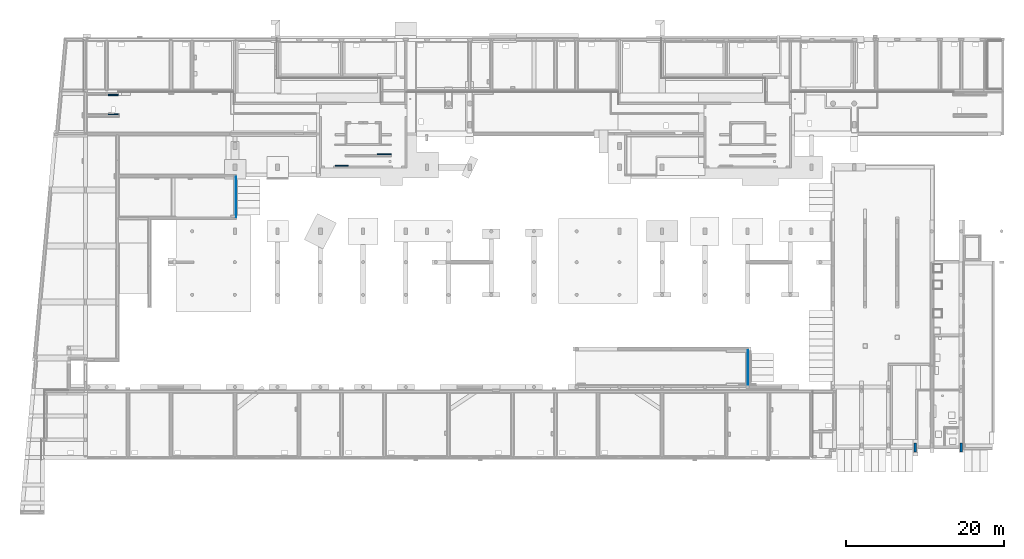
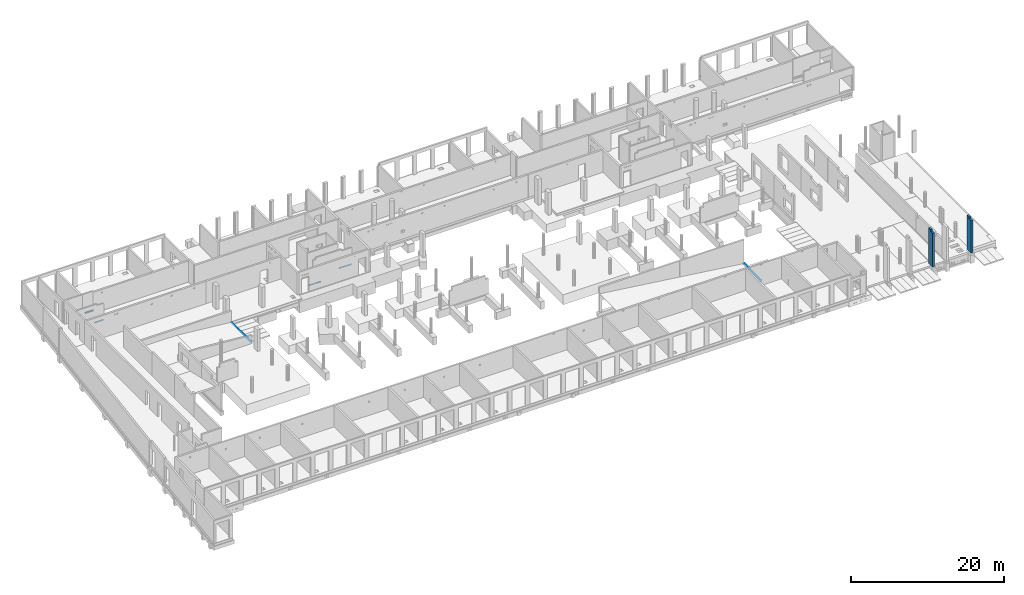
# One storey, part 17 of 60: 6 beams, 2 columns.
"""IFC2X3 building model written with IfcOpenShell, lengths in millimetres."""

from ifc_helpers import new_model, entity, si_unit, converted_unit, derived_unit, direction, frame, frame_2d, origin, place, context, subcontext, project, spatial, polyline, circle_curve, parameter, trimmed, segment, composite_curve, outline, extrude, faceted_brep, source, transform, mapped, material, type_object, type_shapes, element, save


model = new_model("IFC2X3")

# Units and contexts
model_context = context("Model", 3, precision=0.01, world=origin(), true_north=direction((6.12303176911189e-17, 1.0)))
body_context = subcontext(model_context, "Body", "Model", "MODEL_VIEW")
ifc_project = project(units=[si_unit("LENGTHUNIT", "METRE", prefix="MILLI"), si_unit("AREAUNIT", "SQUARE_METRE"), si_unit("VOLUMEUNIT", "CUBIC_METRE"), converted_unit("PLANEANGLEUNIT", "DEGREE", entity("IfcRatioMeasure", 0.0174532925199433), si_unit("PLANEANGLEUNIT", "RADIAN"), dimensions=[0, 0, 0, 0, 0, 0, 0]), si_unit("MASSUNIT", "GRAM", prefix="KILO"), derived_unit("MASSDENSITYUNIT", [(si_unit("MASSUNIT", "GRAM", prefix="KILO"), 1), (si_unit("LENGTHUNIT", "METRE"), -3)]), si_unit("TIMEUNIT", "SECOND"), si_unit("FREQUENCYUNIT", "HERTZ"), si_unit("THERMODYNAMICTEMPERATUREUNIT", "DEGREE_CELSIUS"), derived_unit("THERMALTRANSMITTANCEUNIT", [(si_unit("MASSUNIT", "GRAM", prefix="KILO"), 1), (si_unit("THERMODYNAMICTEMPERATUREUNIT", "KELVIN"), -1), (si_unit("TIMEUNIT", "SECOND"), -3)]), derived_unit("VOLUMETRICFLOWRATEUNIT", [(si_unit("LENGTHUNIT", "METRE"), 3), (si_unit("TIMEUNIT", "SECOND"), -1)]), si_unit("ELECTRICCURRENTUNIT", "AMPERE"), si_unit("ELECTRICVOLTAGEUNIT", "VOLT"), si_unit("POWERUNIT", "WATT"), si_unit("FORCEUNIT", "NEWTON", prefix="KILO"), si_unit("ILLUMINANCEUNIT", "LUX"), si_unit("LUMINOUSFLUXUNIT", "LUMEN"), si_unit("LUMINOUSINTENSITYUNIT", "CANDELA"), derived_unit("USERDEFINED", [(si_unit("MASSUNIT", "GRAM", prefix="KILO"), -1), (si_unit("LENGTHUNIT", "METRE"), -2), (si_unit("TIMEUNIT", "SECOND"), 3), (si_unit("LUMINOUSFLUXUNIT", "LUMEN"), 1)]), derived_unit("LINEARVELOCITYUNIT", [(si_unit("LENGTHUNIT", "METRE"), 1), (si_unit("TIMEUNIT", "SECOND"), -1)]), si_unit("PRESSUREUNIT", "PASCAL"), derived_unit("USERDEFINED", [(si_unit("LENGTHUNIT", "METRE"), -2), (si_unit("MASSUNIT", "GRAM", prefix="KILO"), 1), (si_unit("TIMEUNIT", "SECOND"), -2)])], contexts=[model_context])

# Site, building, storey
site_placement = place(None, origin())
site = spatial("IfcSite", under=ifc_project, at=site_placement, Name="Default", CompositionType="ELEMENT")
building_placement = place(site_placement, origin())
building = spatial("IfcBuilding", under=site, at=building_placement, Name="niet gebruiken", CompositionType="ELEMENT")
storey_placement = place(building_placement, origin())
storey = spatial("IfcBuildingStorey", under=building, at=storey_placement, Name="00 begane grond", CompositionType="ELEMENT", Elevation=0.0)

# Columns
ifc_material_1 = material(Name="NLRS_f2_beton prefab")
column_type_1 = type_object("IfcColumnType", Name="300x1100", PredefinedType="COLUMN", material=ifc_material_1)
shared_shape_1 = source(origin(), body_context, "Body", "Brep", [
    faceted_brep([(0.0, 0.0, 0.0), (300.0, 0.0, 0.0), (300.0, 0.0, 5360.0), (0.0, 0.0, 5360.0), (0.0, 1100.0, 5620.0), (300.0, 1100.0, 5620.0), (300.0, 1100.0, 0.0), (0.0, 1100.0, 0.0), (0.0, 570.0, 5620.0), (300.0, 570.0, 5620.0), (0.0, 570.0, 5360.0), (300.0, 570.0, 5360.0)], [[[0, 1, 2, 3]], [[4, 5, 6, 7]], [[5, 4, 8, 9]], [[6, 1, 0, 7]], [[7, 0, 3, 10, 8, 4]], [[1, 6, 5, 9, 11, 2]], [[10, 11, 9, 8]], [[11, 10, 3, 2]]]),
])
type_shapes(column_type_1, [shared_shape_1])
column_1_placement = place(storey_placement, frame((112850.000370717, 1000.0, -170.0)))
element("IfcColumn", 1, at=column_1_placement, inside=storey, type_object=column_type_1, material=ifc_material_1, Name="NLRS_28. kolom vierkant_gen1:300x1100", ObjectType="300x1100", context=body_context, shape_type="MappedRepresentation", body=[
    mapped(shared_shape_1, transform((0.0, 0.0, 0.0), scale=1.0)),
])
column_type_2 = type_object("IfcColumnType", Name="300x1100", PredefinedType="COLUMN", material=ifc_material_1)
shared_shape_2 = source(origin(), body_context, "Body", "Brep", [
    faceted_brep([(0.0, 0.0, 0.0), (300.0, 0.0, 0.0), (300.0, 0.0, 5160.0), (0.0, 0.0, 5160.0), (0.0, 1100.0, 5420.0), (300.0, 1100.0, 5420.0), (300.0, 1100.0, 0.0), (0.0, 1100.0, 0.0), (0.0, 570.0, 5420.0), (300.0, 570.0, 5420.0), (0.0, 570.0, 5160.0), (300.0, 570.0, 5160.0)], [[[0, 1, 2, 3]], [[4, 5, 6, 7]], [[5, 4, 8, 9]], [[6, 1, 0, 7]], [[7, 0, 3, 10, 8, 4]], [[1, 6, 5, 9, 11, 2]], [[10, 11, 9, 8]], [[11, 10, 3, 2]]]),
])
type_shapes(column_type_2, [shared_shape_2])
column_2_placement = place(storey_placement, frame((118650.0, 1000.0, 30.0)))
element("IfcColumn", 2, at=column_2_placement, inside=storey, type_object=column_type_2, material=ifc_material_1, Name="NLRS_28. kolom vierkant_gen1:300x1100", ObjectType="300x1100", context=body_context, shape_type="MappedRepresentation", body=[
    mapped(shared_shape_2, transform((0.0, 0.0, 0.0), scale=1.0)),
])

# Beams
ifc_material_2 = material(Name="NLRS_h2_staal")
beam_type_1 = type_object("IfcBeamType", Name="NLRS_28.11_SF_WPB_stalen ligger hoekprofiel gelijkzijdig_gen:ligger gelijzijdig hoekprofiel LEQU_150x150x15", PredefinedType="BEAM")
beam_1_placement = place(storey_placement, frame((39672.5032059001, 37148.5000000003, 600.909090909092)))
element("IfcBeam", 3, at=beam_1_placement, inside=storey, type_object=beam_type_1, material=ifc_material_2, Name="NLRS_28.11_SF_WPB_stalen ligger hoekprofiel gelijkzijdig_gen:ligger gelijzijdig hoekprofiel LEQU_150x150x15", ObjectType="NLRS_28.11_SF_WPB_stalen ligger hoekprofiel gelijkzijdig_gen:ligger gelijzijdig hoekprofiel LEQU_150x150x15", context=body_context, shape_type="SweptSolid", body=[
    extrude(outline(composite_curve([segment(polyline([(-93.3333333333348, -56.6666666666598), (56.6666666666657, -56.6666666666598)]), True, "CONTINUOUS"), segment(polyline([(56.6666666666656, -56.6666666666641), (56.6666666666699, 93.3333333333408)]), True, "CONTINUOUS"), segment(polyline([(56.6666666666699, 93.3333333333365), (49.6666666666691, 93.333333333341)]), True, "CONTINUOUS"), segment(trimmed(circle_curve(frame_2d((49.666666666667, 85.3333333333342), x_axis=(0.0, 1.0)), 7.99999999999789), [parameter(0.0)], [parameter(90.0000000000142)], True, "PARAMETER"), True, "CONTINUOUS"), segment(polyline([(41.6666666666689, 85.3333333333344), (41.6666666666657, -25.666666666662)]), True, "CONTINUOUS"), segment(trimmed(circle_curve(frame_2d((25.6666666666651, -25.6666666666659), x_axis=(1.0, 0.0)), 16.0000000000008), [parameter(270.000000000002)], [parameter(0.0)], True, "PARAMETER"), False, "CONTINUOUS"), segment(polyline([(25.6666666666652, -41.6666666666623), (-85.3333333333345, -41.6666666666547)]), True, "CONTINUOUS"), segment(trimmed(circle_curve(frame_2d((-85.3333333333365, -49.6666666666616), x_axis=(0.0, 1.0)), 7.99999999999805), [parameter(0.0)], [parameter(90.0000000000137)], True, "PARAMETER"), True, "CONTINUOUS"), segment(polyline([(-93.3333333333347, -49.6666666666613), (-93.3333333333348, -56.6666666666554)]), True, "CONTINUOUS")], self_intersect=False)), frame((0.0, 14.1666666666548, 56.6666666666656), z_axis=(1.0, 0.0, 0.0), x_axis=(0.0, 0.0, -1.0)), (0.0, 0.0, 1.0), 1660.0),
])
beam_2_placement = place(storey_placement, frame((12255.0, 46133.5000000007, 760.0), z_axis=(0.0, 0.0, 1.0), x_axis=(-1.0, 0.0, 0.0)))
element("IfcBeam", 4, at=beam_2_placement, inside=storey, type_object=beam_type_1, material=ifc_material_2, Name="NLRS_28.11_SF_WPB_stalen ligger hoekprofiel gelijkzijdig_gen:ligger gelijzijdig hoekprofiel LEQU_150x150x15", ObjectType="NLRS_28.11_SF_WPB_stalen ligger hoekprofiel gelijkzijdig_gen:ligger gelijzijdig hoekprofiel LEQU_150x150x15", context=body_context, shape_type="SweptSolid", body=[
    extrude(outline(composite_curve([segment(polyline([(-93.3333333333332, -56.6666666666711), (56.6666666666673, -56.6666666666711)]), True, "CONTINUOUS"), segment(polyline([(56.6666666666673, -56.6666666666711), (56.6666666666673, 93.3333333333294)]), True, "CONTINUOUS"), segment(polyline([(56.6666666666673, 93.3333333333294), (49.6666666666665, 93.3333333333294)]), True, "CONTINUOUS"), segment(trimmed(circle_curve(frame_2d((49.6666666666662, 85.3333333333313), x_axis=(0.0, 1.0)), 7.99999999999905), [parameter(0.0)], [parameter(90.000000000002)], True, "PARAMETER"), True, "CONTINUOUS"), segment(polyline([(41.6666666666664, 85.3333333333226), (41.6666666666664, -25.6666666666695)]), True, "CONTINUOUS"), segment(trimmed(circle_curve(frame_2d((25.66666666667, -25.6666666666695), x_axis=(1.0, 0.0)), 15.9999999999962), [parameter(269.999999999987)], [parameter(0.0)], True, "PARAMETER"), False, "CONTINUOUS"), segment(polyline([(25.6666666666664, -41.6666666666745), (-85.3333333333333, -41.6666666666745)]), True, "CONTINUOUS"), segment(trimmed(circle_curve(frame_2d((-85.3333333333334, -49.6666666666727), x_axis=(0.0, 1.0)), 7.99999999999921), [parameter(0.0)], [parameter(90.000000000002)], True, "PARAMETER"), True, "CONTINUOUS"), segment(polyline([(-93.3333333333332, -49.6666666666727), (-93.3333333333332, -56.6666666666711)]), True, "CONTINUOUS")], self_intersect=False)), frame((0.0, 14.1666666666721, 56.6666666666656), z_axis=(1.0, 0.0, 0.0), x_axis=(0.0, 0.0, -1.0)), (0.0, 0.0, 1.0), 1249.99999999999),
])
beam_3_placement = place(storey_placement, frame((12255.0, 43618.5000000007, 760.0), z_axis=(0.0, 0.0, 1.0), x_axis=(-1.0, 0.0, 0.0)))
element("IfcBeam", 5, at=beam_3_placement, inside=storey, type_object=beam_type_1, material=ifc_material_2, Name="NLRS_28.11_SF_WPB_stalen ligger hoekprofiel gelijkzijdig_gen:ligger gelijzijdig hoekprofiel LEQU_150x150x15", ObjectType="NLRS_28.11_SF_WPB_stalen ligger hoekprofiel gelijkzijdig_gen:ligger gelijzijdig hoekprofiel LEQU_150x150x15", context=body_context, shape_type="SweptSolid", body=[
    extrude(outline(composite_curve([segment(polyline([(49.6666666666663, -93.3333333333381), (56.6666666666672, -93.3333333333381)]), True, "CONTINUOUS"), segment(polyline([(56.6666666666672, -93.3333333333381), (56.6666666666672, 56.6666666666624)]), True, "CONTINUOUS"), segment(polyline([(56.6666666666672, 56.6666666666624), (-93.3333333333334, 56.6666666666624)]), True, "CONTINUOUS"), segment(polyline([(-93.3333333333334, 56.6666666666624), (-93.3333333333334, 49.666666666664)]), True, "CONTINUOUS"), segment(trimmed(circle_curve(frame_2d((-85.3333333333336, 49.666666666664), x_axis=(-1.0, 0.0)), 7.99999999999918), [parameter(0.0)], [parameter(90.000000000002)], True, "PARAMETER"), True, "CONTINUOUS"), segment(polyline([(-85.3333333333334, 41.6666666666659), (25.6666666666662, 41.6666666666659)]), True, "CONTINUOUS"), segment(trimmed(circle_curve(frame_2d((25.6666666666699, 25.6666666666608), x_axis=(0.0, 1.0)), 15.9999999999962), [parameter(269.999999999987)], [parameter(0.0)], True, "PARAMETER"), False, "CONTINUOUS"), segment(polyline([(41.6666666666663, 25.6666666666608), (41.6666666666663, -85.3333333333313)]), True, "CONTINUOUS"), segment(trimmed(circle_curve(frame_2d((49.6666666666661, -85.3333333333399), x_axis=(-1.0, 0.0)), 7.99999999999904), [parameter(0.0)], [parameter(90.000000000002)], True, "PARAMETER"), True, "CONTINUOUS")], self_intersect=False)), frame((0.0, -14.1666666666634, 56.6666666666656), z_axis=(1.0, 0.0, 0.0), x_axis=(0.0, 0.0, -1.0)), (0.0, 0.0, 1.0), 1249.99999999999),
])
beam_4_placement = place(storey_placement, frame((45020.0, 38568.5, 600.909090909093)))
element("IfcBeam", 6, at=beam_4_placement, inside=storey, type_object=beam_type_1, material=ifc_material_2, Name="NLRS_28.11_SF_WPB_stalen ligger hoekprofiel gelijkzijdig_gen:ligger gelijzijdig hoekprofiel LEQU_150x150x15", ObjectType="NLRS_28.11_SF_WPB_stalen ligger hoekprofiel gelijkzijdig_gen:ligger gelijzijdig hoekprofiel LEQU_150x150x15", context=body_context, shape_type="SweptSolid", body=[
    extrude(outline(composite_curve([segment(polyline([(-93.3333333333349, -56.6666666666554), (56.6666666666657, -56.6666666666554)]), True, "CONTINUOUS"), segment(polyline([(56.6666666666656, -56.6666666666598), (56.6666666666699, 93.3333333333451)]), True, "CONTINUOUS"), segment(polyline([(56.6666666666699, 93.3333333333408), (49.6666666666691, 93.3333333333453)]), True, "CONTINUOUS"), segment(trimmed(circle_curve(frame_2d((49.666666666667, 85.3333333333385), x_axis=(0.0, 1.0)), 7.99999999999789), [parameter(0.0)], [parameter(90.0000000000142)], True, "PARAMETER"), True, "CONTINUOUS"), segment(polyline([(41.6666666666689, 85.3333333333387), (41.6666666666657, -25.6666666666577)]), True, "CONTINUOUS"), segment(trimmed(circle_curve(frame_2d((25.6666666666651, -25.6666666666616), x_axis=(1.0, 0.0)), 16.0000000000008), [parameter(270.000000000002)], [parameter(0.0)], True, "PARAMETER"), False, "CONTINUOUS"), segment(polyline([(25.6666666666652, -41.6666666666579), (-85.3333333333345, -41.6666666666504)]), True, "CONTINUOUS"), segment(trimmed(circle_curve(frame_2d((-85.3333333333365, -49.6666666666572), x_axis=(0.0, 1.0)), 7.99999999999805), [parameter(0.0)], [parameter(90.0000000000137)], True, "PARAMETER"), True, "CONTINUOUS"), segment(polyline([(-93.3333333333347, -49.666666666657), (-93.3333333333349, -56.6666666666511)]), True, "CONTINUOUS")], self_intersect=False)), frame((0.0, 14.1666666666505, 56.6666666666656), z_axis=(1.0, 0.0, 0.0), x_axis=(0.0, 0.0, -1.0)), (0.0, 0.0, 1.0), 1755.00000000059),
])
beam_type_2 = type_object("IfcBeamType", Name="NLRS_28.11_SF_WPB_stalen ligger hoekprofiel gelijkzijdig_gen:ligger gelijzijdig hoekprofiel LEQU_50x50x5", PredefinedType="BEAM")
beam_5_placement = place(storey_placement, frame((91835.9598372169, 13875.6157390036, -50.0), z_axis=(0.0, 0.0, 1.0), x_axis=(0.0, -1.0, 0.0)))
element("IfcBeam", 7, at=beam_5_placement, inside=storey, type_object=beam_type_2, material=ifc_material_2, Name="NLRS_28.11_SF_WPB_stalen ligger hoekprofiel gelijkzijdig_gen:ligger gelijzijdig hoekprofiel LEQU_50x50x5", ObjectType="NLRS_28.11_SF_WPB_stalen ligger hoekprofiel gelijkzijdig_gen:ligger gelijzijdig hoekprofiel LEQU_50x50x5", context=body_context, shape_type="SweptSolid", body=[
    extrude(outline(composite_curve([segment(polyline([(-18.8888888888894, -31.1111111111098), (-17.3888888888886, -31.1111111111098)]), True, "CONTINUOUS"), segment(trimmed(circle_curve(frame_2d((-17.3888888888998, -27.6111111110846), x_axis=(0.0, -1.0)), 3.5000000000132), [parameter(0.0)], [parameter(89.9999999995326)], True, "PARAMETER"), True, "CONTINUOUS"), segment(polyline([(-13.8888888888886, -27.6111111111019), (-13.8888888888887, 6.88888888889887)]), True, "CONTINUOUS"), segment(trimmed(circle_curve(frame_2d((-6.88888888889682, 6.88888888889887), x_axis=(-1.0, 0.0)), 6.99999999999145), [parameter(269.999999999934)], [parameter(0.0)], True, "PARAMETER"), False, "CONTINUOUS"), segment(polyline([(-6.88888888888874, 13.8888888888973), (27.6111111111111, 13.8888888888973)]), True, "CONTINUOUS"), segment(trimmed(circle_curve(frame_2d((27.6111111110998, 17.3888888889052), x_axis=(0.0, -1.0)), 3.50000000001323), [parameter(0.0)], [parameter(89.9999999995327)], True, "PARAMETER"), True, "CONTINUOUS"), segment(polyline([(31.1111111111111, 17.3888888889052), (31.1111111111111, 18.8888888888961)]), True, "CONTINUOUS"), segment(polyline([(31.1111111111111, 18.8888888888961), (-18.8888888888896, 18.8888888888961)]), True, "CONTINUOUS"), segment(polyline([(-18.8888888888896, 18.8888888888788), (-18.8888888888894, -31.1111111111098)]), True, "CONTINUOUS")], self_intersect=False)), frame((0.0, -4.84888888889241, 31.1111111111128), z_axis=(1.0, 0.0, 0.0), x_axis=(0.0, 0.0, -1.0)), (0.0, 0.0, 1.0), 4466.91573839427),
])
beam_6_placement = place(storey_placement, frame((27135.9599999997, 35756.0, -50.0), z_axis=(0.0, 0.0, 1.0), x_axis=(0.0, -1.0, 0.0)))
element("IfcBeam", 8, at=beam_6_placement, inside=storey, type_object=beam_type_2, material=ifc_material_2, Name="NLRS_28.11_SF_WPB_stalen ligger hoekprofiel gelijkzijdig_gen:ligger gelijzijdig hoekprofiel LEQU_50x50x5", ObjectType="NLRS_28.11_SF_WPB_stalen ligger hoekprofiel gelijkzijdig_gen:ligger gelijzijdig hoekprofiel LEQU_50x50x5", context=body_context, shape_type="SweptSolid", body=[
    extrude(outline(composite_curve([segment(polyline([(-18.8888888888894, -31.1111111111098), (-17.3888888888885, -31.1111111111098)]), True, "CONTINUOUS"), segment(trimmed(circle_curve(frame_2d((-17.3888888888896, -27.6111111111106), x_axis=(0.0, -1.0)), 3.50000000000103), [parameter(0.0)], [parameter(89.9999999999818)], True, "PARAMETER"), True, "CONTINUOUS"), segment(polyline([(-13.8888888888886, -27.6111111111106), (-13.8888888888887, 6.88888888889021)]), True, "CONTINUOUS"), segment(trimmed(circle_curve(frame_2d((-6.88888888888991, 6.88888888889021), x_axis=(-1.0, 0.0)), 6.9999999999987), [parameter(269.99999999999)], [parameter(0.0)], True, "PARAMETER"), False, "CONTINUOUS"), segment(polyline([(-6.8888888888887, 13.8888888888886), (27.6111111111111, 13.8888888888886)]), True, "CONTINUOUS"), segment(trimmed(circle_curve(frame_2d((27.61111111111, 17.3888888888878), x_axis=(0.0, -1.0)), 3.50000000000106), [parameter(0.0)], [parameter(89.9999999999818)], True, "PARAMETER"), True, "CONTINUOUS"), segment(polyline([(31.1111111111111, 17.3888888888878), (31.1111111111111, 18.8888888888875)]), True, "CONTINUOUS"), segment(polyline([(31.1111111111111, 18.8888888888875), (-18.8888888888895, 18.8888888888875)]), True, "CONTINUOUS"), segment(polyline([(-18.8888888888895, 18.8888888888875), (-18.8888888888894, -31.1111111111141)]), True, "CONTINUOUS")], self_intersect=False)), frame((0.0, -4.84888888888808, 31.1111111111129), z_axis=(1.0, 0.0, 0.0), x_axis=(0.0, 0.0, -1.0)), (0.0, 0.0, 1.0), 5080.00000000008),
])

save(model, "model.ifc")
